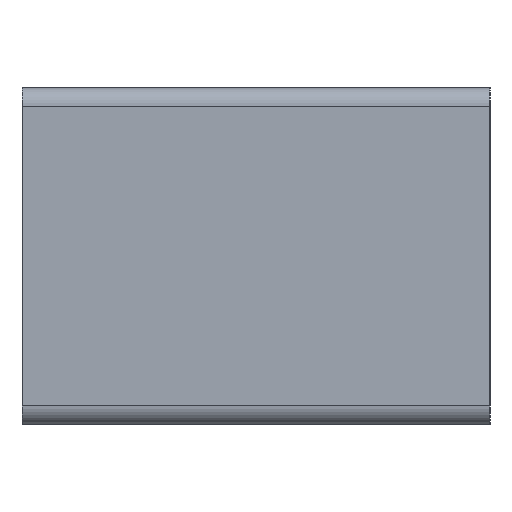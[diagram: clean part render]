
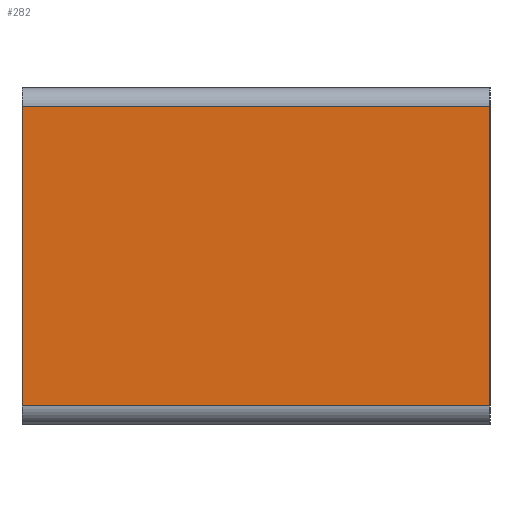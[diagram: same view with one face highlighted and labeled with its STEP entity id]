
A CAD part, left-side view. The second image highlights one B-rep face of the part: STEP entity #282.
In plain terms, the highlighted planar face has unit normal (-1, 0, 0).
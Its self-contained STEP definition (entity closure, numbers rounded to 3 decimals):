
#15 = CARTESIAN_POINT ( 'NONE',  ( -1., 0.625, 0.85 ) ) ;
#16 = VERTEX_POINT ( 'NONE', #15 ) ;
#26 = CARTESIAN_POINT ( 'NONE',  ( -1., -0.625, 0.85 ) ) ;
#27 = VERTEX_POINT ( 'NONE', #26 ) ;
#28 = CARTESIAN_POINT ( 'NONE',  ( -1., 0.625, 0.85 ) ) ;
#29 = DIRECTION ( 'NONE',  ( 0., 1., 0. ) ) ;
#30 = VECTOR ( 'NONE', #29, 1000. ) ;
#31 = LINE ( 'NONE', #28, #30 ) ;
#32 = EDGE_CURVE ( 'NONE', #27, #16, #31, .T. ) ;
#252 = CARTESIAN_POINT ( 'NONE',  ( -1., 0.625, 0.05 ) ) ;
#253 = VERTEX_POINT ( 'NONE', #252 ) ;
#254 = CARTESIAN_POINT ( 'NONE',  ( -1., 0.625, 0.9 ) ) ;
#255 = DIRECTION ( 'NONE',  ( 0., 0., -1. ) ) ;
#256 = VECTOR ( 'NONE', #255, 1000. ) ;
#257 = LINE ( 'NONE', #254, #256 ) ;
#258 = EDGE_CURVE ( 'NONE', #16, #253, #257, .T. ) ;
#259 = ORIENTED_EDGE ( 'NONE', *, *, #258, .T. ) ;
#260 = CARTESIAN_POINT ( 'NONE',  ( -1., -0.625, 0.05 ) ) ;
#261 = VERTEX_POINT ( 'NONE', #260 ) ;
#262 = CARTESIAN_POINT ( 'NONE',  ( -1., 0.625, 0.05 ) ) ;
#263 = DIRECTION ( 'NONE',  ( 0., -1., 0. ) ) ;
#264 = VECTOR ( 'NONE', #263, 1000. ) ;
#265 = LINE ( 'NONE', #262, #264 ) ;
#266 = EDGE_CURVE ( 'NONE', #253, #261, #265, .T. ) ;
#267 = ORIENTED_EDGE ( 'NONE', *, *, #266, .T. ) ;
#268 = CARTESIAN_POINT ( 'NONE',  ( -1., -0.625, 0.9 ) ) ;
#269 = DIRECTION ( 'NONE',  ( 0., 0., -1. ) ) ;
#270 = VECTOR ( 'NONE', #269, 1000. ) ;
#271 = LINE ( 'NONE', #268, #270 ) ;
#272 = EDGE_CURVE ( 'NONE', #27, #261, #271, .T. ) ;
#273 = ORIENTED_EDGE ( 'NONE', *, *, #272, .F. ) ;
#274 = ORIENTED_EDGE ( 'NONE', *, *, #32, .T. ) ;
#275 = EDGE_LOOP ( 'NONE', ( #259, #267, #273, #274 ) ) ;
#276 = FACE_OUTER_BOUND ( 'NONE', #275, .T. ) ;
#277 = CARTESIAN_POINT ( 'NONE',  ( -1., 0.625, 0.9 ) ) ;
#278 = DIRECTION ( 'NONE',  ( -1., 0., 0. ) ) ;
#279 = DIRECTION ( 'NONE',  ( 0., 0., -1. ) ) ;
#280 = AXIS2_PLACEMENT_3D ( 'NONE', #277, #278, #279 ) ;
#281 = PLANE ( 'NONE', #280 ) ;
#282 = ADVANCED_FACE ( 'NONE', ( #276 ), #281, .T. ) ;
